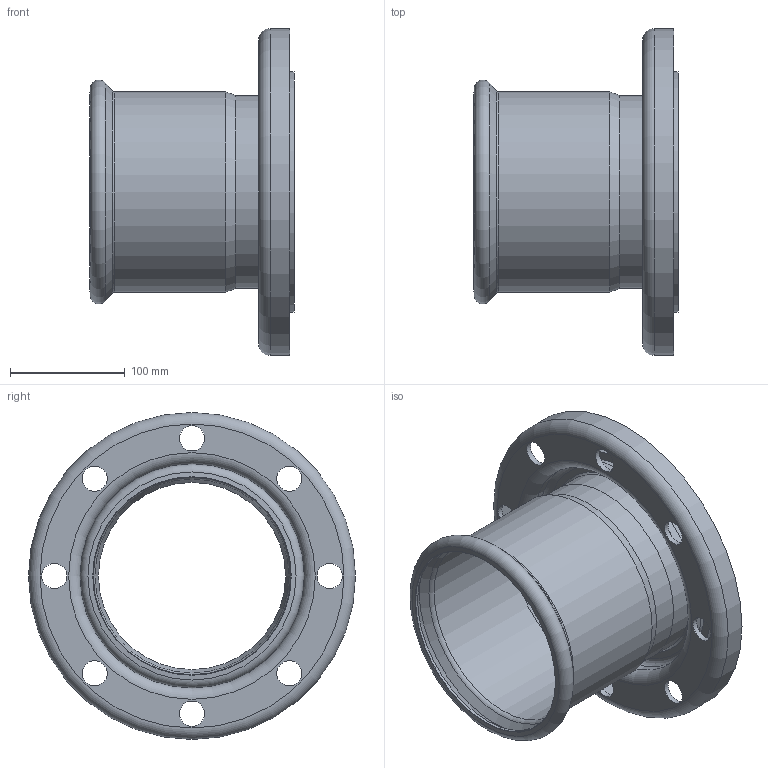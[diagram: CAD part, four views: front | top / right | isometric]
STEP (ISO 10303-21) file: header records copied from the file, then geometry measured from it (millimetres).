
FILE_DESCRIPTION((''),'2;1');
FILE_NAME('G:\Nirosan-Schmiedefeld\Technics\CAD\001 Serie 9.000\169_va\6VAPF168H(0).stp','2020-04-21T15:24:49',('herberg'),(''),'Autodesk Inventor 2009','Autodesk Inventor 2009','');
FILE_SCHEMA(('AUTOMOTIVE_DESIGN { 1 0 10303 214 1 1 1 1 }'));
Length unit declared in the file: millimetre
Products named in the file (4): 6VAPF168H(0); 69HM168P(0); 69ATBFL168P(0); 69FL168240P(1)
Assembly tree (3 placements, depth 2):
  6VAPF168H(0)
    69HM168P(0)
    69ATBFL168P(0)
    69FL168240P(1)
Bounding box: 178 x 285 x 285 mm (x, y, z)
Volume: 605151.7 mm3; surface area: 368778.4 mm2
Topology: 3 solids, 3 shells, 49 faces, 105 edges, 65 vertices
Faces by surface type: bspline 14, cylinder 12, plane 9, cone 8, torus 6
Full cylindrical faces by diameter (mm): 163.1 x2, 168.3 x2, 169.3 x1, 173 x1, 174.5 x1, 195 x1, 204.2 x1, 210 x1, 275.8 x1, 285 x1
Entity records: 1600 total; most frequent: CARTESIAN_POINT 606, DIRECTION 198, ORIENTED_EDGE 114, EDGE_LOOP 114, AXIS2_PLACEMENT_3D 99, FACE_BOUND 65, VERTEX_POINT 57, CIRCLE 57
